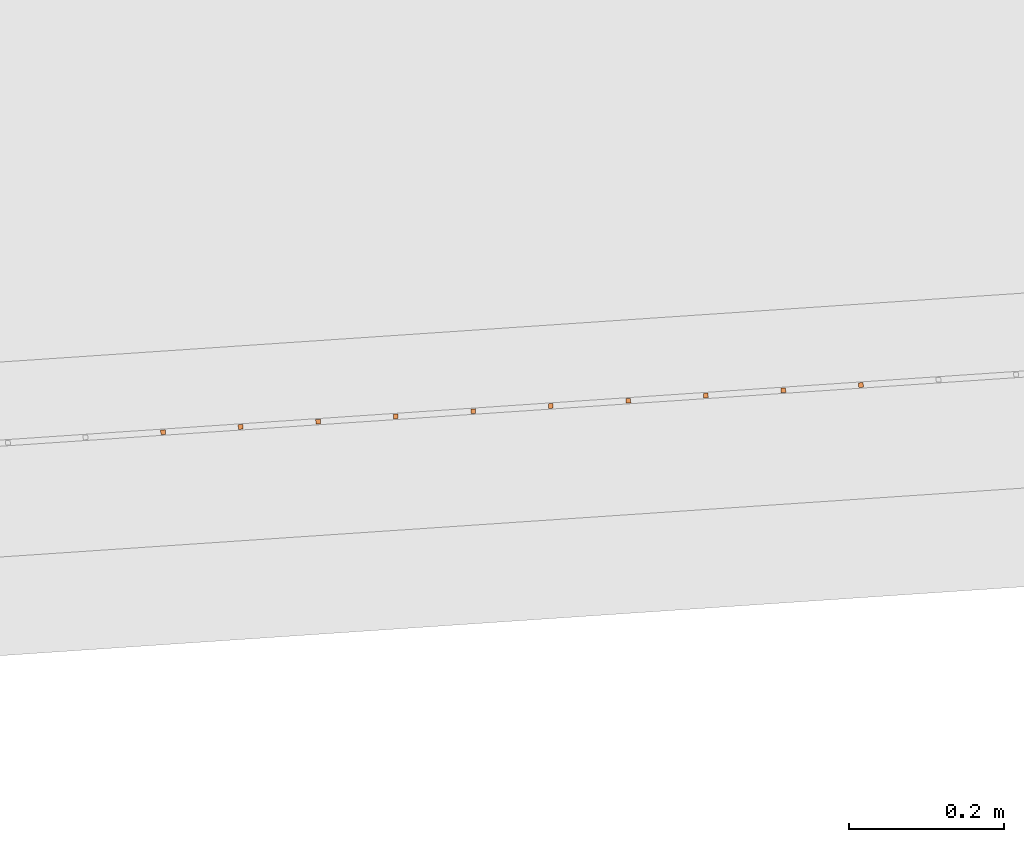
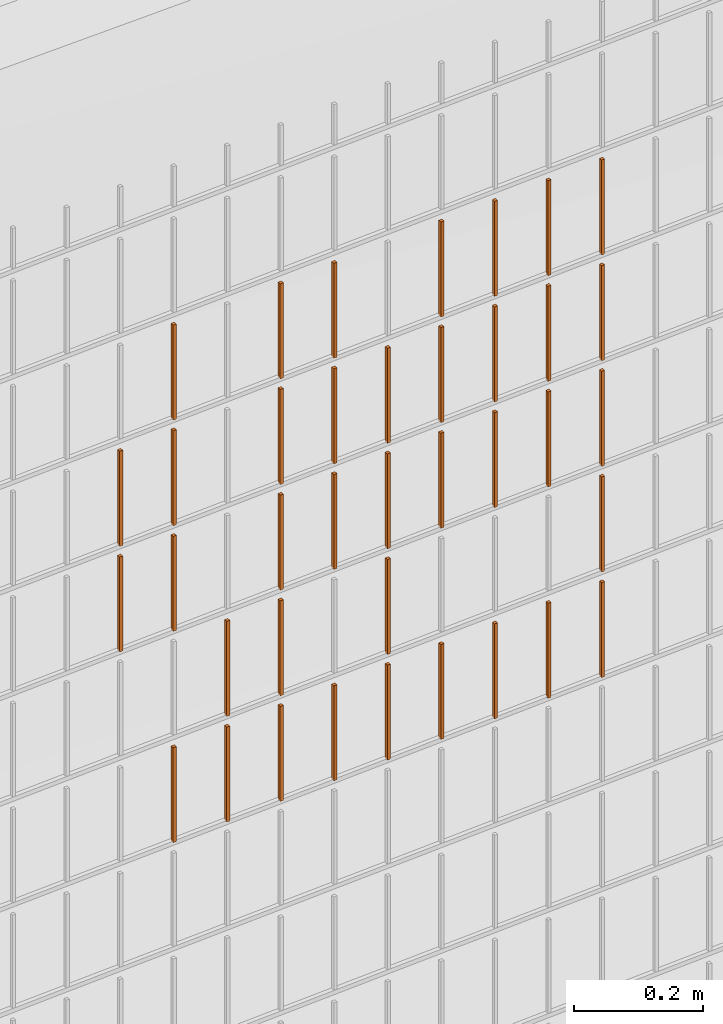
# One storey, part 362 of 1809: 38 proxies, 1 element without a shape of its own.
"""IFC2X3 building model written with IfcOpenShell, lengths in millimetres."""

from ifc_helpers import new_model, entity, si_unit, converted_unit, derived_unit, money_unit, direction, frame, origin_with_axes, place, context, subcontext, project, spatial, faceted_brep, source, transform, mapped, material, type_object, element, aggregate, save


model = new_model("IFC2X3")

# Units and contexts
model_context = context("Model", 3, precision=0.01, world=origin_with_axes(), true_north=direction((0.0, 1.0)))
body_context = subcontext(model_context, "Body", "Model", "MODEL_VIEW")
ifc_project = project(units=[si_unit("LENGTHUNIT", "METRE", prefix="MILLI"), si_unit("AREAUNIT", "SQUARE_METRE"), si_unit("VOLUMEUNIT", "CUBIC_METRE"), converted_unit("PLANEANGLEUNIT", "DEGREE", entity("IfcPlaneAngleMeasure", 0.0174532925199), si_unit("PLANEANGLEUNIT", "RADIAN"), dimensions=[0, 0, 0, 0, 0, 0, 0]), si_unit("SOLIDANGLEUNIT", "STERADIAN"), money_unit("EUR"), converted_unit("TIMEUNIT", "Year", entity("IfcTimeMeasure", 31556926.0), si_unit("TIMEUNIT", "SECOND"), dimensions=[0, 0, 1, 0, 0, 0, 0]), si_unit("MASSUNIT", "GRAM", prefix="KILO"), si_unit("THERMODYNAMICTEMPERATUREUNIT", "DEGREE_CELSIUS"), si_unit("LUMINOUSINTENSITYUNIT", "LUMEN"), si_unit("ENERGYUNIT", "JOULE", prefix="MEGA"), derived_unit("THERMALCONDUCTANCEUNIT", [(si_unit("POWERUNIT", "WATT"), 1), (si_unit("LENGTHUNIT", "METRE"), -1), (si_unit("THERMODYNAMICTEMPERATUREUNIT", "KELVIN"), -1)]), derived_unit("SPECIFICHEATCAPACITYUNIT", [(si_unit("ENERGYUNIT", "JOULE"), 1), (si_unit("MASSUNIT", "GRAM", prefix="KILO"), -1), (si_unit("THERMODYNAMICTEMPERATUREUNIT", "KELVIN"), -1)]), derived_unit("MASSDENSITYUNIT", [(si_unit("MASSUNIT", "GRAM", prefix="KILO"), 1), (si_unit("VOLUMEUNIT", "CUBIC_METRE"), -1)])], contexts=[model_context])

# Site, building, storey
site_placement = place(None, origin_with_axes())
site = spatial("IfcSite", under=ifc_project, at=site_placement, Name="Politse- ja Piirivalveameti ning Päästeameti ühishoone", CompositionType="ELEMENT")
building_placement = place(site_placement, origin_with_axes())
building = spatial("IfcBuilding", under=site, at=building_placement, Name="Politse- ja Piirivalveameti ning Päästeameti ühishoone", CompositionType="ELEMENT")
storey_placement = place(building_placement, origin_with_axes())
storey = spatial("IfcBuildingStorey", under=building, at=storey_placement, Name="Esimene korrus", CompositionType="ELEMENT", Elevation=0.0)

# Proxies
building_element_proxy_type_1 = type_object("IfcBuildingElementProxyType", Name="Railing Type", PredefinedType="NOTDEFINED")
proxy_1_placement = place(storey_placement, frame((89252.001212, -29183.4766571, 203.661247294), z_axis=(0.0, 0.0, 1.0), x_axis=(1.0, 0.0, 0.0)))
proxy_1 = element("IfcBuildingElementProxy", 1, at=proxy_1_placement, inside=storey, type_object=building_element_proxy_type_1, Name="PIIRDEAED")
ifc_material = material(Name="ET-03_Raud")
building_element_proxy_type_2 = type_object("IfcBuildingElementProxyType", Name="IfcBuildingElementProxy", PredefinedType="NOTDEFINED")
shared_shape_1 = source(origin_with_axes(), body_context, "Body", "Brep", [
    faceted_brep([(3.0, 3.0, -0.000752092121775), (-3.0, 3.0, -0.000752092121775), (-3.0, 3.0, 179.99926046), (3.0, 3.0, 179.99926046), (3.0, -3.0, 0.000752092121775), (-3.0, -3.0, 0.000752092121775), (-3.0, -3.0, 180.000764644), (3.0, -3.0, 180.000764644)], [[[0, 1, 2, 3]], [[0, 4, 5, 1]], [[1, 5, 6, 2]], [[3, 2, 6, 7]], [[4, 0, 3, 7]], [[5, 4, 7, 6]]]),
])
proxy_2_placement = place(proxy_1_placement, frame((-23473.2007557, -18883.300888, 1421.33630662), z_axis=(0.0, 0.0, 1.0), x_axis=(1.0, 0.0, 0.0)))
proxy_2 = element("IfcBuildingElementProxy", 2, at=proxy_2_placement, type_object=building_element_proxy_type_2, material=ifc_material, Name="BALUSTER - 001", context=body_context, shape_type="MappedRepresentation", body=[
    mapped(shared_shape_1, transform((0.0, 0.0, 0.0), x_axis=(-0.0673926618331, 0.997726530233, 0.0), y_axis=(-0.997726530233, -0.0673926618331, 0.0), z_axis=(0.0, 0.0, 1.0))),
])
proxy_3_placement = place(proxy_1_placement, frame((-23572.9734087, -18890.0401542, 1421.31123688), z_axis=(0.0, 0.0, 1.0), x_axis=(1.0, 0.0, 0.0)))
proxy_3 = element("IfcBuildingElementProxy", 3, at=proxy_3_placement, type_object=building_element_proxy_type_2, material=ifc_material, Name="BALUSTER - 001", context=body_context, shape_type="MappedRepresentation", body=[
    mapped(shared_shape_1, transform((0.0, 0.0, 0.0), x_axis=(-0.0673926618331, 0.997726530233, 0.0), y_axis=(-0.997726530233, -0.0673926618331, 0.0), z_axis=(0.0, 0.0, 1.0))),
])
shared_shape_2 = source(origin_with_axes(), body_context, "Body", "Brep", [
    faceted_brep([(3.0, 3.0, -0.000752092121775), (-3.0, 3.0, -0.000752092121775), (-3.0, 3.0, 179.99926046), (3.0, 3.0, 179.99926046), (3.0, -3.0, 0.000752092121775), (-3.0, -3.0, 0.000752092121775), (-3.0, -3.0, 180.000764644), (3.0, -3.0, 180.000764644)], [[[0, 1, 2, 3]], [[0, 4, 5, 1]], [[1, 5, 6, 2]], [[3, 2, 6, 7]], [[4, 0, 3, 7]], [[5, 4, 7, 6]]]),
])
proxy_4_placement = place(proxy_1_placement, frame((-23473.2007557, -18883.300888, 821.336306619), z_axis=(0.0, 0.0, 1.0), x_axis=(1.0, 0.0, 0.0)))
proxy_4 = element("IfcBuildingElementProxy", 4, at=proxy_4_placement, type_object=building_element_proxy_type_2, material=ifc_material, Name="BALUSTER - 001", context=body_context, shape_type="MappedRepresentation", body=[
    mapped(shared_shape_2, transform((0.0, 0.0, 0.0), x_axis=(-0.0673926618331, 0.997726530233, 0.0), y_axis=(-0.997726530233, -0.0673926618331, 0.0), z_axis=(0.0, 0.0, 1.0))),
])
proxy_5_placement = place(proxy_1_placement, frame((-23473.2007557, -18883.300888, 1221.33630662), z_axis=(0.0, 0.0, 1.0), x_axis=(1.0, 0.0, 0.0)))
proxy_5 = element("IfcBuildingElementProxy", 5, at=proxy_5_placement, type_object=building_element_proxy_type_2, material=ifc_material, Name="BALUSTER - 001", context=body_context, shape_type="MappedRepresentation", body=[
    mapped(shared_shape_2, transform((0.0, 0.0, 0.0), x_axis=(-0.0673926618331, 0.997726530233, 0.0), y_axis=(-0.997726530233, -0.0673926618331, 0.0), z_axis=(0.0, 0.0, 1.0))),
])
proxy_6_placement = place(proxy_1_placement, frame((-23572.9734087, -18890.0401542, 1221.31123688), z_axis=(0.0, 0.0, 1.0), x_axis=(1.0, 0.0, 0.0)))
proxy_6 = element("IfcBuildingElementProxy", 6, at=proxy_6_placement, type_object=building_element_proxy_type_2, material=ifc_material, Name="BALUSTER - 001", context=body_context, shape_type="MappedRepresentation", body=[
    mapped(shared_shape_2, transform((0.0, 0.0, 0.0), x_axis=(-0.0673926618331, 0.997726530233, 0.0), y_axis=(-0.997726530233, -0.0673926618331, 0.0), z_axis=(0.0, 0.0, 1.0))),
])
shared_shape_3 = source(origin_with_axes(), body_context, "Body", "Brep", [
    faceted_brep([(3.0, 3.0, -0.000752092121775), (-3.0, 3.0, -0.000752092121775), (-3.0, 3.0, 179.99926046), (3.0, 3.0, 179.99926046), (3.0, -3.0, 0.000752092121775), (-3.0, -3.0, 0.000752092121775), (-3.0, -3.0, 180.000764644), (3.0, -3.0, 180.000764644)], [[[0, 1, 2, 3]], [[0, 4, 5, 1]], [[1, 5, 6, 2]], [[3, 2, 6, 7]], [[4, 0, 3, 7]], [[5, 4, 7, 6]]]),
])
proxy_7_placement = place(proxy_1_placement, frame((-23473.2007557, -18883.300888, 1621.33630662), z_axis=(0.0, 0.0, 1.0), x_axis=(1.0, 0.0, 0.0)))
proxy_7 = element("IfcBuildingElementProxy", 7, at=proxy_7_placement, type_object=building_element_proxy_type_2, material=ifc_material, Name="BALUSTER - 001", context=body_context, shape_type="MappedRepresentation", body=[
    mapped(shared_shape_3, transform((0.0, 0.0, 0.0), x_axis=(-0.0673926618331, 0.997726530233, 0.0), y_axis=(-0.997726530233, -0.0673926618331, 0.0), z_axis=(0.0, 0.0, 1.0))),
])
shared_shape_4 = source(origin_with_axes(), body_context, "Body", "Brep", [
    faceted_brep([(3.0, 3.0, -0.000752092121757), (-3.0, 3.0, -0.000752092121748), (-3.00000000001, 2.99999999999, 179.99926046), (2.99999999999, 2.99999999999, 179.99926046), (3.0, -3.0, 0.000752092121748), (-3.0, -3.0, 0.000752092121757), (-3.00000000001, -3.00000000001, 180.000764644), (2.99999999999, -3.00000000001, 180.000764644)], [[[0, 1, 2, 3]], [[0, 4, 5, 1]], [[1, 5, 6, 2]], [[3, 2, 6, 7]], [[4, 0, 3, 7]], [[5, 4, 7, 6]]]),
])
proxy_8_placement = place(proxy_1_placement, frame((-23572.9734087, -18890.0401542, 1021.31123688), z_axis=(0.0, 0.0, 1.0), x_axis=(1.0, 0.0, 0.0)))
proxy_8 = element("IfcBuildingElementProxy", 8, at=proxy_8_placement, type_object=building_element_proxy_type_2, material=ifc_material, Name="BALUSTER - 001", context=body_context, shape_type="MappedRepresentation", body=[
    mapped(shared_shape_4, transform((0.0, 0.0, 0.0), x_axis=(-0.0673926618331, 0.997726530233, 0.0), y_axis=(-0.997726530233, -0.0673926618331, 0.0), z_axis=(0.0, 0.0, 1.0))),
])
proxy_9_placement = place(proxy_1_placement, frame((-23772.5187147, -18903.5186865, 1021.26109741), z_axis=(0.0, 0.0, 1.0), x_axis=(1.0, 0.0, 0.0)))
proxy_9 = element("IfcBuildingElementProxy", 9, at=proxy_9_placement, type_object=building_element_proxy_type_2, material=ifc_material, Name="BALUSTER - 001", context=body_context, shape_type="MappedRepresentation", body=[
    mapped(shared_shape_4, transform((0.0, 0.0, 0.0), x_axis=(-0.0673926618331, 0.997726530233, 0.0), y_axis=(-0.997726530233, -0.0673926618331, 0.0), z_axis=(0.0, 0.0, 1.0))),
])
shared_shape_5 = source(origin_with_axes(), body_context, "Body", "Brep", [
    faceted_brep([(3.0, 3.0, -0.000752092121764), (-3.0, 3.0, -0.000752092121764), (-3.0, 3.0, 179.99926046), (3.0, 3.0, 179.99926046), (3.0, -3.0, 0.000752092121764), (-3.0, -3.0, 0.000752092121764), (-3.0, -3.0, 180.000764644), (3.0, -3.0, 180.000764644)], [[[0, 1, 2, 3]], [[0, 4, 5, 1]], [[1, 5, 6, 2]], [[3, 2, 6, 7]], [[4, 0, 3, 7]], [[5, 4, 7, 6]]]),
])
proxy_10_placement = place(proxy_1_placement, frame((-23273.6554496, -18869.8223556, 1221.38644609), z_axis=(0.0, 0.0, 1.0), x_axis=(1.0, 0.0, 0.0)))
proxy_10 = element("IfcBuildingElementProxy", 10, at=proxy_10_placement, type_object=building_element_proxy_type_2, material=ifc_material, Name="BALUSTER - 001", context=body_context, shape_type="MappedRepresentation", body=[
    mapped(shared_shape_5, transform((0.0, 0.0, 0.0), x_axis=(-0.0673926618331, 0.997726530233, 0.0), y_axis=(-0.997726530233, -0.0673926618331, 0.0), z_axis=(0.0, 0.0, 1.0))),
])
proxy_11_placement = place(proxy_1_placement, frame((-24071.8366738, -18923.7364851, 1221.18588819), z_axis=(0.0, 0.0, 1.0), x_axis=(1.0, 0.0, 0.0)))
proxy_11 = element("IfcBuildingElementProxy", 11, at=proxy_11_placement, type_object=building_element_proxy_type_2, material=ifc_material, Name="BALUSTER - 001", context=body_context, shape_type="MappedRepresentation", body=[
    mapped(shared_shape_5, transform((0.0, 0.0, 0.0), x_axis=(-0.0673926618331, 0.997726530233, 0.0), y_axis=(-0.997726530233, -0.0673926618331, 0.0), z_axis=(0.0, 0.0, 1.0))),
])
shared_shape_6 = source(origin_with_axes(), body_context, "Body", "Brep", [
    faceted_brep([(3.0, 3.0, -0.000752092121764), (-3.0, 3.0, -0.000752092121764), (-3.0, 3.0, 179.99926046), (3.0, 3.0, 179.99926046), (3.0, -3.0, 0.000752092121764), (-3.0, -3.0, 0.000752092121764), (-3.0, -3.0, 180.000764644), (3.0, -3.0, 180.000764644)], [[[0, 1, 2, 3]], [[0, 4, 5, 1]], [[1, 5, 6, 2]], [[3, 2, 6, 7]], [[4, 0, 3, 7]], [[5, 4, 7, 6]]]),
])
proxy_12_placement = place(proxy_1_placement, frame((-23872.2913678, -18910.2579527, 821.23602767), z_axis=(0.0, 0.0, 1.0), x_axis=(1.0, 0.0, 0.0)))
proxy_12 = element("IfcBuildingElementProxy", 12, at=proxy_12_placement, type_object=building_element_proxy_type_2, material=ifc_material, Name="BALUSTER - 001", context=body_context, shape_type="MappedRepresentation", body=[
    mapped(shared_shape_6, transform((0.0, 0.0, 0.0), x_axis=(-0.0673926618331, 0.997726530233, 0.0), y_axis=(-0.997726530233, -0.0673926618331, 0.0), z_axis=(0.0, 0.0, 1.0))),
])
shared_shape_7 = source(origin_with_axes(), body_context, "Body", "Brep", [
    faceted_brep([(3.0, 3.0, -0.000752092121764), (-3.0, 3.0, -0.000752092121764), (-3.0, 3.0, 179.99926046), (3.0, 3.0, 179.99926046), (3.0, -3.0, 0.000752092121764), (-3.0, -3.0, 0.000752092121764), (-3.0, -3.0, 180.000764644), (3.0, -3.0, 180.000764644)], [[[0, 1, 2, 3]], [[0, 4, 5, 1]], [[1, 5, 6, 2]], [[3, 2, 6, 7]], [[4, 0, 3, 7]], [[5, 4, 7, 6]]]),
])
proxy_13_placement = place(proxy_1_placement, frame((-23273.6554496, -18869.8223556, 1421.38644609), z_axis=(0.0, 0.0, 1.0), x_axis=(1.0, 0.0, 0.0)))
proxy_13 = element("IfcBuildingElementProxy", 13, at=proxy_13_placement, type_object=building_element_proxy_type_2, material=ifc_material, Name="BALUSTER - 001", context=body_context, shape_type="MappedRepresentation", body=[
    mapped(shared_shape_7, transform((0.0, 0.0, 0.0), x_axis=(-0.0673926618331, 0.997726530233, 0.0), y_axis=(-0.997726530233, -0.0673926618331, 0.0), z_axis=(0.0, 0.0, 1.0))),
])
proxy_14_placement = place(proxy_1_placement, frame((-24071.8366738, -18923.7364851, 1421.18588819), z_axis=(0.0, 0.0, 1.0), x_axis=(1.0, 0.0, 0.0)))
proxy_14 = element("IfcBuildingElementProxy", 14, at=proxy_14_placement, type_object=building_element_proxy_type_2, material=ifc_material, Name="BALUSTER - 001", context=body_context, shape_type="MappedRepresentation", body=[
    mapped(shared_shape_7, transform((0.0, 0.0, 0.0), x_axis=(-0.0673926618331, 0.997726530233, 0.0), y_axis=(-0.997726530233, -0.0673926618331, 0.0), z_axis=(0.0, 0.0, 1.0))),
])
proxy_15_placement = place(proxy_1_placement, frame((-23273.6554496, -18869.8223556, 1621.38644609), z_axis=(0.0, 0.0, 1.0), x_axis=(1.0, 0.0, 0.0)))
proxy_15 = element("IfcBuildingElementProxy", 15, at=proxy_15_placement, type_object=building_element_proxy_type_2, material=ifc_material, Name="BALUSTER - 001", context=body_context, shape_type="MappedRepresentation", body=[
    mapped(shared_shape_7, transform((0.0, 0.0, 0.0), x_axis=(-0.0673926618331, 0.997726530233, 0.0), y_axis=(-0.997726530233, -0.0673926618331, 0.0), z_axis=(0.0, 0.0, 1.0))),
])
shared_shape_8 = source(origin_with_axes(), body_context, "Body", "Brep", [
    faceted_brep([(3.0, 3.0, -0.000752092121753), (-3.0, 3.0, -0.000752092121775), (-3.0, 3.0, 179.99926046), (3.0, 3.0, 179.99926046), (3.0, -3.0, 0.000752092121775), (-3.0, -3.0, 0.000752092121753), (-3.0, -3.0, 180.000764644), (3.0, -3.0, 180.000764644)], [[[0, 1, 2, 3]], [[0, 4, 5, 1]], [[1, 5, 6, 2]], [[3, 2, 6, 7]], [[4, 0, 3, 7]], [[5, 4, 7, 6]]]),
])
proxy_16_placement = place(proxy_1_placement, frame((-23173.8827966, -18863.0830894, 1421.41151583), z_axis=(0.0, 0.0, 1.0), x_axis=(1.0, 0.0, 0.0)))
proxy_16 = element("IfcBuildingElementProxy", 16, at=proxy_16_placement, type_object=building_element_proxy_type_2, material=ifc_material, Name="BALUSTER - 001", context=body_context, shape_type="MappedRepresentation", body=[
    mapped(shared_shape_8, transform((0.0, 0.0, 0.0), x_axis=(-0.0673926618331, 0.997726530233, 0.0), y_axis=(-0.997726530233, -0.0673926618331, 0.0), z_axis=(0.0, 0.0, 1.0))),
])
shared_shape_9 = source(origin_with_axes(), body_context, "Body", "Brep", [
    faceted_brep([(3.0, 3.0, -0.000752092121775), (-3.0, 3.0, -0.000752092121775), (-3.0, 3.0, 179.99926046), (3.0, 3.0, 179.99926046), (3.0, -3.0, 0.000752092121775), (-3.0, -3.0, 0.000752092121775), (-3.0, -3.0, 180.000764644), (3.0, -3.0, 180.000764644)], [[[0, 1, 2, 3]], [[0, 4, 5, 1]], [[1, 5, 6, 2]], [[3, 2, 6, 7]], [[4, 0, 3, 7]], [[5, 4, 7, 6]]]),
])
proxy_17_placement = place(proxy_1_placement, frame((-23772.5187147, -18903.5186865, 1421.26109741), z_axis=(0.0, 0.0, 1.0), x_axis=(1.0, 0.0, 0.0)))
proxy_17 = element("IfcBuildingElementProxy", 17, at=proxy_17_placement, type_object=building_element_proxy_type_2, material=ifc_material, Name="BALUSTER - 001", context=body_context, shape_type="MappedRepresentation", body=[
    mapped(shared_shape_9, transform((0.0, 0.0, 0.0), x_axis=(-0.0673926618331, 0.997726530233, 0.0), y_axis=(-0.997726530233, -0.0673926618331, 0.0), z_axis=(0.0, 0.0, 1.0))),
])
shared_shape_10 = source(origin_with_axes(), body_context, "Body", "Brep", [
    faceted_brep([(3.0, 3.0, -0.000752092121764), (-3.0, 3.0, -0.000752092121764), (-3.0, 3.0, 179.99926046), (3.0, 3.0, 179.99926046), (3.0, -3.0, 0.000752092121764), (-3.0, -3.0, 0.000752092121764), (-3.0, -3.0, 180.000764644), (3.0, -3.0, 180.000764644)], [[[0, 1, 2, 3]], [[0, 4, 5, 1]], [[1, 5, 6, 2]], [[3, 2, 6, 7]], [[4, 0, 3, 7]], [[5, 4, 7, 6]]]),
])
proxy_18_placement = place(proxy_1_placement, frame((-23273.6554496, -18869.8223556, 821.386446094), z_axis=(0.0, 0.0, 1.0), x_axis=(1.0, 0.0, 0.0)))
proxy_18 = element("IfcBuildingElementProxy", 18, at=proxy_18_placement, type_object=building_element_proxy_type_2, material=ifc_material, Name="BALUSTER - 001", context=body_context, shape_type="MappedRepresentation", body=[
    mapped(shared_shape_10, transform((0.0, 0.0, 0.0), x_axis=(-0.0673926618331, 0.997726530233, 0.0), y_axis=(-0.997726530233, -0.0673926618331, 0.0), z_axis=(0.0, 0.0, 1.0))),
])
proxy_19_placement = place(proxy_1_placement, frame((-23373.4281026, -18876.5616218, 1221.36137636), z_axis=(0.0, 0.0, 1.0), x_axis=(1.0, 0.0, 0.0)))
proxy_19 = element("IfcBuildingElementProxy", 19, at=proxy_19_placement, type_object=building_element_proxy_type_2, material=ifc_material, Name="BALUSTER - 001", context=body_context, shape_type="MappedRepresentation", body=[
    mapped(shared_shape_10, transform((0.0, 0.0, 0.0), x_axis=(-0.0673926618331, 0.997726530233, 0.0), y_axis=(-0.997726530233, -0.0673926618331, 0.0), z_axis=(0.0, 0.0, 1.0))),
])
proxy_20_placement = place(proxy_1_placement, frame((-23972.0640208, -18916.9972189, 1221.21095793), z_axis=(0.0, 0.0, 1.0), x_axis=(1.0, 0.0, 0.0)))
proxy_20 = element("IfcBuildingElementProxy", 20, at=proxy_20_placement, type_object=building_element_proxy_type_2, material=ifc_material, Name="BALUSTER - 001", context=body_context, shape_type="MappedRepresentation", body=[
    mapped(shared_shape_10, transform((0.0, 0.0, 0.0), x_axis=(-0.0673926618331, 0.997726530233, 0.0), y_axis=(-0.997726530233, -0.0673926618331, 0.0), z_axis=(0.0, 0.0, 1.0))),
])
shared_shape_11 = source(origin_with_axes(), body_context, "Body", "Brep", [
    faceted_brep([(3.0, 3.0, -0.000752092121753), (-3.0, 3.0, -0.000752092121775), (-3.0, 3.0, 179.99926046), (3.0, 3.0, 179.99926046), (3.0, -3.0, 0.000752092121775), (-3.0, -3.0, 0.000752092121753), (-3.0, -3.0, 180.000764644), (3.0, -3.0, 180.000764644)], [[[0, 1, 2, 3]], [[0, 4, 5, 1]], [[1, 5, 6, 2]], [[3, 2, 6, 7]], [[4, 0, 3, 7]], [[5, 4, 7, 6]]]),
])
proxy_21_placement = place(proxy_1_placement, frame((-23173.8827966, -18863.0830894, 821.411515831), z_axis=(0.0, 0.0, 1.0), x_axis=(1.0, 0.0, 0.0)))
proxy_21 = element("IfcBuildingElementProxy", 21, at=proxy_21_placement, type_object=building_element_proxy_type_2, material=ifc_material, Name="BALUSTER - 001", context=body_context, shape_type="MappedRepresentation", body=[
    mapped(shared_shape_11, transform((0.0, 0.0, 0.0), x_axis=(-0.0673926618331, 0.997726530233, 0.0), y_axis=(-0.997726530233, -0.0673926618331, 0.0), z_axis=(0.0, 0.0, 1.0))),
])
proxy_22_placement = place(proxy_1_placement, frame((-23173.8827966, -18863.0830894, 1221.41151583), z_axis=(0.0, 0.0, 1.0), x_axis=(1.0, 0.0, 0.0)))
proxy_22 = element("IfcBuildingElementProxy", 22, at=proxy_22_placement, type_object=building_element_proxy_type_2, material=ifc_material, Name="BALUSTER - 001", context=body_context, shape_type="MappedRepresentation", body=[
    mapped(shared_shape_11, transform((0.0, 0.0, 0.0), x_axis=(-0.0673926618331, 0.997726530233, 0.0), y_axis=(-0.997726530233, -0.0673926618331, 0.0), z_axis=(0.0, 0.0, 1.0))),
])
shared_shape_12 = source(origin_with_axes(), body_context, "Body", "Brep", [
    faceted_brep([(3.0, 3.0, -0.000752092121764), (-3.0, 3.0, -0.000752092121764), (-3.0, 3.0, 179.99926046), (3.0, 3.0, 179.99926046), (3.0, -3.0, 0.000752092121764), (-3.0, -3.0, 0.000752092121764), (-3.0, -3.0, 180.000764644), (3.0, -3.0, 180.000764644)], [[[0, 1, 2, 3]], [[0, 4, 5, 1]], [[1, 5, 6, 2]], [[3, 2, 6, 7]], [[4, 0, 3, 7]], [[5, 4, 7, 6]]]),
])
proxy_23_placement = place(proxy_1_placement, frame((-23373.4281026, -18876.5616218, 821.361376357), z_axis=(0.0, 0.0, 1.0), x_axis=(1.0, 0.0, 0.0)))
proxy_23 = element("IfcBuildingElementProxy", 23, at=proxy_23_placement, type_object=building_element_proxy_type_2, material=ifc_material, Name="BALUSTER - 001", context=body_context, shape_type="MappedRepresentation", body=[
    mapped(shared_shape_12, transform((0.0, 0.0, 0.0), x_axis=(-0.0673926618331, 0.997726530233, 0.0), y_axis=(-0.997726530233, -0.0673926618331, 0.0), z_axis=(0.0, 0.0, 1.0))),
])
shared_shape_13 = source(origin_with_axes(), body_context, "Body", "Brep", [
    faceted_brep([(3.0, 3.0, -0.000752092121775), (-3.0, 3.0, -0.000752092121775), (-3.0, 3.0, 179.99926046), (3.0, 3.0, 179.99926046), (3.0, -3.0, 0.000752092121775), (-3.0, -3.0, 0.000752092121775), (-3.0, -3.0, 180.000764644), (3.0, -3.0, 180.000764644)], [[[0, 1, 2, 3]], [[0, 4, 5, 1]], [[1, 5, 6, 2]], [[3, 2, 6, 7]], [[4, 0, 3, 7]], [[5, 4, 7, 6]]]),
])
proxy_24_placement = place(proxy_1_placement, frame((-23572.9734087, -18890.0401542, 821.311236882), z_axis=(0.0, 0.0, 1.0), x_axis=(1.0, 0.0, 0.0)))
proxy_24 = element("IfcBuildingElementProxy", 24, at=proxy_24_placement, type_object=building_element_proxy_type_2, material=ifc_material, Name="BALUSTER - 001", context=body_context, shape_type="MappedRepresentation", body=[
    mapped(shared_shape_13, transform((0.0, 0.0, 0.0), x_axis=(-0.0673926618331, 0.997726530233, 0.0), y_axis=(-0.997726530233, -0.0673926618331, 0.0), z_axis=(0.0, 0.0, 1.0))),
])
proxy_25_placement = place(proxy_1_placement, frame((-23772.5187147, -18903.5186865, 821.261097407), z_axis=(0.0, 0.0, 1.0), x_axis=(1.0, 0.0, 0.0)))
proxy_25 = element("IfcBuildingElementProxy", 25, at=proxy_25_placement, type_object=building_element_proxy_type_2, material=ifc_material, Name="BALUSTER - 001", context=body_context, shape_type="MappedRepresentation", body=[
    mapped(shared_shape_13, transform((0.0, 0.0, 0.0), x_axis=(-0.0673926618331, 0.997726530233, 0.0), y_axis=(-0.997726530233, -0.0673926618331, 0.0), z_axis=(0.0, 0.0, 1.0))),
])
proxy_26_placement = place(proxy_1_placement, frame((-23772.5187147, -18903.5186865, 1221.26109741), z_axis=(0.0, 0.0, 1.0), x_axis=(1.0, 0.0, 0.0)))
proxy_26 = element("IfcBuildingElementProxy", 26, at=proxy_26_placement, type_object=building_element_proxy_type_2, material=ifc_material, Name="BALUSTER - 001", context=body_context, shape_type="MappedRepresentation", body=[
    mapped(shared_shape_13, transform((0.0, 0.0, 0.0), x_axis=(-0.0673926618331, 0.997726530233, 0.0), y_axis=(-0.997726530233, -0.0673926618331, 0.0), z_axis=(0.0, 0.0, 1.0))),
])
shared_shape_14 = source(origin_with_axes(), body_context, "Body", "Brep", [
    faceted_brep([(3.0, 3.0, -0.000752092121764), (-3.0, 3.0, -0.000752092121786), (-3.0, 3.0, 179.99926046), (3.0, 3.0, 179.99926046), (3.0, -3.0, 0.000752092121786), (-3.0, -3.0, 0.000752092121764), (-3.0, -3.0, 180.000764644), (3.0, -3.0, 180.000764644)], [[[0, 1, 2, 3]], [[0, 4, 5, 1]], [[1, 5, 6, 2]], [[3, 2, 6, 7]], [[4, 0, 3, 7]], [[5, 4, 7, 6]]]),
])
proxy_27_placement = place(proxy_1_placement, frame((-23672.7460617, -18896.7794204, 821.286167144), z_axis=(0.0, 0.0, 1.0), x_axis=(1.0, 0.0, 0.0)))
proxy_27 = element("IfcBuildingElementProxy", 27, at=proxy_27_placement, type_object=building_element_proxy_type_2, material=ifc_material, Name="BALUSTER - 001", context=body_context, shape_type="MappedRepresentation", body=[
    mapped(shared_shape_14, transform((0.0, 0.0, 0.0), x_axis=(-0.0673926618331, 0.997726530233, 0.0), y_axis=(-0.997726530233, -0.0673926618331, 0.0), z_axis=(0.0, 0.0, 1.0))),
])
shared_shape_15 = source(origin_with_axes(), body_context, "Body", "Brep", [
    faceted_brep([(3.0, 3.0, -0.000752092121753), (-3.0, 3.0, -0.000752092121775), (-3.0, 3.0, 179.99926046), (3.0, 3.0, 179.99926046), (3.0, -3.0, 0.000752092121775), (-3.0, -3.0, 0.000752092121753), (-3.0, -3.0, 180.000764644), (3.0, -3.0, 180.000764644)], [[[0, 1, 2, 3]], [[0, 4, 5, 1]], [[1, 5, 6, 2]], [[3, 2, 6, 7]], [[4, 0, 3, 7]], [[5, 4, 7, 6]]]),
])
proxy_28_placement = place(proxy_1_placement, frame((-23972.0640208, -18916.9972189, 821.210957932), z_axis=(0.0, 0.0, 1.0), x_axis=(1.0, 0.0, 0.0)))
proxy_28 = element("IfcBuildingElementProxy", 28, at=proxy_28_placement, type_object=building_element_proxy_type_2, material=ifc_material, Name="BALUSTER - 001", context=body_context, shape_type="MappedRepresentation", body=[
    mapped(shared_shape_15, transform((0.0, 0.0, 0.0), x_axis=(-0.0673926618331, 0.997726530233, 0.0), y_axis=(-0.997726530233, -0.0673926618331, 0.0), z_axis=(0.0, 0.0, 1.0))),
])
shared_shape_16 = source(origin_with_axes(), body_context, "Body", "Brep", [
    faceted_brep([(3.0, 3.0, -0.000752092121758), (-3.0, 3.0, -0.00075209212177), (-3.00000000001, 3.0, 179.99926046), (2.99999999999, 3.0, 179.99926046), (3.0, -3.0, 0.00075209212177), (-3.0, -3.0, 0.000752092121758), (-3.00000000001, -3.0, 180.000764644), (2.99999999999, -3.0, 180.000764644)], [[[0, 1, 2, 3]], [[0, 4, 5, 1]], [[1, 5, 6, 2]], [[3, 2, 6, 7]], [[4, 0, 3, 7]], [[5, 4, 7, 6]]]),
])
proxy_29_placement = place(proxy_1_placement, frame((-23872.2913678, -18910.2579527, 1021.23602767), z_axis=(0.0, 0.0, 1.0), x_axis=(1.0, 0.0, 0.0)))
proxy_29 = element("IfcBuildingElementProxy", 29, at=proxy_29_placement, type_object=building_element_proxy_type_2, material=ifc_material, Name="BALUSTER - 001", context=body_context, shape_type="MappedRepresentation", body=[
    mapped(shared_shape_16, transform((0.0, 0.0, 0.0), x_axis=(-0.0673926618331, 0.997726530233, 0.0), y_axis=(-0.997726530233, -0.0673926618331, 0.0), z_axis=(0.0, 0.0, 1.0))),
])
shared_shape_17 = source(origin_with_axes(), body_context, "Body", "Brep", [
    faceted_brep([(3.0, 3.0, -0.000752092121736), (-3.0, 3.0, -0.000752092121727), (-3.00000000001, 2.99999999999, 179.99926046), (2.99999999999, 2.99999999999, 179.99926046), (3.0, -3.0, 0.000752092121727), (-3.0, -3.0, 0.000752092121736), (-3.00000000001, -3.00000000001, 180.000764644), (2.99999999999, -3.00000000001, 180.000764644)], [[[0, 1, 2, 3]], [[0, 4, 5, 1]], [[1, 5, 6, 2]], [[3, 2, 6, 7]], [[4, 0, 3, 7]], [[5, 4, 7, 6]]]),
])
proxy_30_placement = place(proxy_1_placement, frame((-23173.8827966, -18863.0830894, 1021.41151583), z_axis=(0.0, 0.0, 1.0), x_axis=(1.0, 0.0, 0.0)))
proxy_30 = element("IfcBuildingElementProxy", 30, at=proxy_30_placement, type_object=building_element_proxy_type_2, material=ifc_material, Name="BALUSTER - 001", context=body_context, shape_type="MappedRepresentation", body=[
    mapped(shared_shape_17, transform((0.0, 0.0, 0.0), x_axis=(-0.0673926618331, 0.997726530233, 0.0), y_axis=(-0.997726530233, -0.0673926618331, 0.0), z_axis=(0.0, 0.0, 1.0))),
])
shared_shape_18 = source(origin_with_axes(), body_context, "Body", "Brep", [
    faceted_brep([(3.0, 3.0, -0.000752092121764), (-3.0, 3.0, -0.000752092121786), (-3.0, 3.0, 179.99926046), (3.0, 3.0, 179.99926046), (3.0, -3.0, 0.000752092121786), (-3.0, -3.0, 0.000752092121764), (-3.0, -3.0, 180.000764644), (3.0, -3.0, 180.000764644)], [[[0, 1, 2, 3]], [[0, 4, 5, 1]], [[1, 5, 6, 2]], [[3, 2, 6, 7]], [[4, 0, 3, 7]], [[5, 4, 7, 6]]]),
])
proxy_31_placement = place(proxy_1_placement, frame((-23672.7460617, -18896.7794204, 1221.28616714), z_axis=(0.0, 0.0, 1.0), x_axis=(1.0, 0.0, 0.0)))
proxy_31 = element("IfcBuildingElementProxy", 31, at=proxy_31_placement, type_object=building_element_proxy_type_2, material=ifc_material, Name="BALUSTER - 001", context=body_context, shape_type="MappedRepresentation", body=[
    mapped(shared_shape_18, transform((0.0, 0.0, 0.0), x_axis=(-0.0673926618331, 0.997726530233, 0.0), y_axis=(-0.997726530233, -0.0673926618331, 0.0), z_axis=(0.0, 0.0, 1.0))),
])
shared_shape_19 = source(origin_with_axes(), body_context, "Body", "Brep", [
    faceted_brep([(3.0, 3.0, -0.000752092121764), (-3.0, 3.0, -0.000752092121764), (-3.0, 3.0, 179.99926046), (3.0, 3.0, 179.99926046), (3.0, -3.0, 0.000752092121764), (-3.0, -3.0, 0.000752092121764), (-3.0, -3.0, 180.000764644), (3.0, -3.0, 180.000764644)], [[[0, 1, 2, 3]], [[0, 4, 5, 1]], [[1, 5, 6, 2]], [[3, 2, 6, 7]], [[4, 0, 3, 7]], [[5, 4, 7, 6]]]),
])
proxy_32_placement = place(proxy_1_placement, frame((-23373.4281026, -18876.5616218, 1421.36137636), z_axis=(0.0, 0.0, 1.0), x_axis=(1.0, 0.0, 0.0)))
proxy_32 = element("IfcBuildingElementProxy", 32, at=proxy_32_placement, type_object=building_element_proxy_type_2, material=ifc_material, Name="BALUSTER - 001", context=body_context, shape_type="MappedRepresentation", body=[
    mapped(shared_shape_19, transform((0.0, 0.0, 0.0), x_axis=(-0.0673926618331, 0.997726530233, 0.0), y_axis=(-0.997726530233, -0.0673926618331, 0.0), z_axis=(0.0, 0.0, 1.0))),
])
proxy_33_placement = place(proxy_1_placement, frame((-23972.0640208, -18916.9972189, 1421.21095793), z_axis=(0.0, 0.0, 1.0), x_axis=(1.0, 0.0, 0.0)))
proxy_33 = element("IfcBuildingElementProxy", 33, at=proxy_33_placement, type_object=building_element_proxy_type_2, material=ifc_material, Name="BALUSTER - 001", context=body_context, shape_type="MappedRepresentation", body=[
    mapped(shared_shape_19, transform((0.0, 0.0, 0.0), x_axis=(-0.0673926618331, 0.997726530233, 0.0), y_axis=(-0.997726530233, -0.0673926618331, 0.0), z_axis=(0.0, 0.0, 1.0))),
])
proxy_34_placement = place(proxy_1_placement, frame((-23373.4281026, -18876.5616218, 1621.36137636), z_axis=(0.0, 0.0, 1.0), x_axis=(1.0, 0.0, 0.0)))
proxy_34 = element("IfcBuildingElementProxy", 34, at=proxy_34_placement, type_object=building_element_proxy_type_2, material=ifc_material, Name="BALUSTER - 001", context=body_context, shape_type="MappedRepresentation", body=[
    mapped(shared_shape_19, transform((0.0, 0.0, 0.0), x_axis=(-0.0673926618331, 0.997726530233, 0.0), y_axis=(-0.997726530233, -0.0673926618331, 0.0), z_axis=(0.0, 0.0, 1.0))),
])
proxy_35_placement = place(proxy_1_placement, frame((-23972.0640208, -18916.9972189, 1621.21095793), z_axis=(0.0, 0.0, 1.0), x_axis=(1.0, 0.0, 0.0)))
proxy_35 = element("IfcBuildingElementProxy", 35, at=proxy_35_placement, type_object=building_element_proxy_type_2, material=ifc_material, Name="BALUSTER - 001", context=body_context, shape_type="MappedRepresentation", body=[
    mapped(shared_shape_19, transform((0.0, 0.0, 0.0), x_axis=(-0.0673926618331, 0.997726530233, 0.0), y_axis=(-0.997726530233, -0.0673926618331, 0.0), z_axis=(0.0, 0.0, 1.0))),
])
shared_shape_20 = source(origin_with_axes(), body_context, "Body", "Brep", [
    faceted_brep([(3.0, 3.0, -0.000752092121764), (-3.0, 3.0, -0.000752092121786), (-3.0, 3.0, 179.99926046), (3.0, 3.0, 179.99926046), (3.0, -3.0, 0.000752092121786), (-3.0, -3.0, 0.000752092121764), (-3.0, -3.0, 180.000764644), (3.0, -3.0, 180.000764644)], [[[0, 1, 2, 3]], [[0, 4, 5, 1]], [[1, 5, 6, 2]], [[3, 2, 6, 7]], [[4, 0, 3, 7]], [[5, 4, 7, 6]]]),
])
proxy_36_placement = place(proxy_1_placement, frame((-23672.7460617, -18896.7794204, 1421.28616714), z_axis=(0.0, 0.0, 1.0), x_axis=(1.0, 0.0, 0.0)))
proxy_36 = element("IfcBuildingElementProxy", 36, at=proxy_36_placement, type_object=building_element_proxy_type_2, material=ifc_material, Name="BALUSTER - 001", context=body_context, shape_type="MappedRepresentation", body=[
    mapped(shared_shape_20, transform((0.0, 0.0, 0.0), x_axis=(-0.0673926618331, 0.997726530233, 0.0), y_axis=(-0.997726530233, -0.0673926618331, 0.0), z_axis=(0.0, 0.0, 1.0))),
])
proxy_37_placement = place(proxy_1_placement, frame((-23672.7460617, -18896.7794204, 1621.28616714), z_axis=(0.0, 0.0, 1.0), x_axis=(1.0, 0.0, 0.0)))
proxy_37 = element("IfcBuildingElementProxy", 37, at=proxy_37_placement, type_object=building_element_proxy_type_2, material=ifc_material, Name="BALUSTER - 001", context=body_context, shape_type="MappedRepresentation", body=[
    mapped(shared_shape_20, transform((0.0, 0.0, 0.0), x_axis=(-0.0673926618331, 0.997726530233, 0.0), y_axis=(-0.997726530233, -0.0673926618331, 0.0), z_axis=(0.0, 0.0, 1.0))),
])
shared_shape_21 = source(origin_with_axes(), body_context, "Body", "Brep", [
    faceted_brep([(3.0, 3.0, -0.000752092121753), (-3.0, 3.0, -0.000752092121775), (-3.0, 3.0, 179.99926046), (3.0, 3.0, 179.99926046), (3.0, -3.0, 0.000752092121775), (-3.0, -3.0, 0.000752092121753), (-3.0, -3.0, 180.000764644), (3.0, -3.0, 180.000764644)], [[[0, 1, 2, 3]], [[0, 4, 5, 1]], [[1, 5, 6, 2]], [[3, 2, 6, 7]], [[4, 0, 3, 7]], [[5, 4, 7, 6]]]),
])
proxy_38_placement = place(proxy_1_placement, frame((-23173.8827966, -18863.0830894, 1621.41151583), z_axis=(0.0, 0.0, 1.0), x_axis=(1.0, 0.0, 0.0)))
proxy_38 = element("IfcBuildingElementProxy", 38, at=proxy_38_placement, type_object=building_element_proxy_type_2, material=ifc_material, Name="BALUSTER - 001", context=body_context, shape_type="MappedRepresentation", body=[
    mapped(shared_shape_21, transform((0.0, 0.0, 0.0), x_axis=(-0.0673926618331, 0.997726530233, 0.0), y_axis=(-0.997726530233, -0.0673926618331, 0.0), z_axis=(0.0, 0.0, 1.0))),
])
shared_shape_22 = source(origin_with_axes(), body_context, "Body", "Brep", [
    faceted_brep([(3.0, 3.0, -0.000752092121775), (-3.0, 3.0, -0.000752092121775), (-3.0, 3.0, 179.99926046), (3.0, 3.0, 179.99926046), (3.0, -3.0, 0.000752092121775), (-3.0, -3.0, 0.000752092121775), (-3.0, -3.0, 180.000764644), (3.0, -3.0, 180.000764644)], [[[0, 1, 2, 3]], [[0, 4, 5, 1]], [[1, 5, 6, 2]], [[3, 2, 6, 7]], [[4, 0, 3, 7]], [[5, 4, 7, 6]]]),
])
proxy_39_placement = place(proxy_1_placement, frame((-23772.5187147, -18903.5186865, 1621.26109741), z_axis=(0.0, 0.0, 1.0), x_axis=(1.0, 0.0, 0.0)))
proxy_39 = element("IfcBuildingElementProxy", 39, at=proxy_39_placement, type_object=building_element_proxy_type_2, material=ifc_material, Name="BALUSTER - 001", context=body_context, shape_type="MappedRepresentation", body=[
    mapped(shared_shape_22, transform((0.0, 0.0, 0.0), x_axis=(-0.0673926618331, 0.997726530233, 0.0), y_axis=(-0.997726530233, -0.0673926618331, 0.0), z_axis=(0.0, 0.0, 1.0))),
])
aggregate(proxy_1, [proxy_21, proxy_18, proxy_23, proxy_4, proxy_24, proxy_27, proxy_25, proxy_12, proxy_28, proxy_30, proxy_8, proxy_9, proxy_29, proxy_22, proxy_10, proxy_19, proxy_5, proxy_6, proxy_31, proxy_26, proxy_20, proxy_11, proxy_16, proxy_13, proxy_32, proxy_2, proxy_3, proxy_36, proxy_17, proxy_33, proxy_14, proxy_38, proxy_15, proxy_34, proxy_7, proxy_37, proxy_39, proxy_35])

save(model, "model.ifc")
